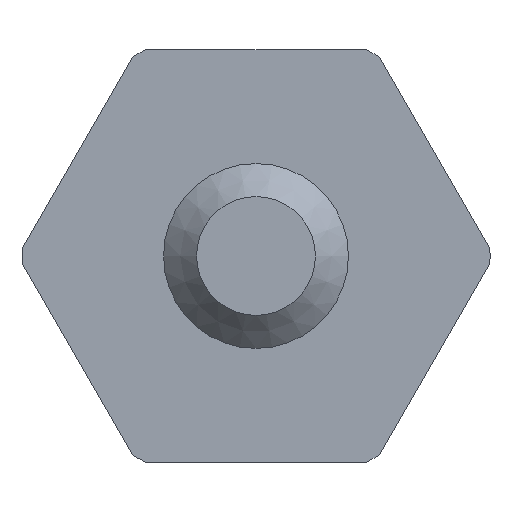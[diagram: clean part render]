
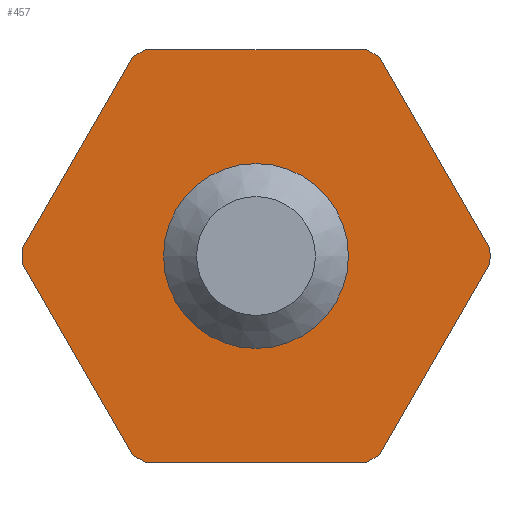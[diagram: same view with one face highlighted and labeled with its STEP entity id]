
A CAD part, left-side view. The second image highlights one B-rep face of the part: STEP entity #457.
In plain terms, the highlighted planar face has unit normal (-1, 0, 0).
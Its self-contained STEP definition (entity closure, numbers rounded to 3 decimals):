
#31=FACE_BOUND($,#88,.T.);
#32=FACE_BOUND($,#89,.T.);
#88=EDGE_LOOP($,(#333));
#89=EDGE_LOOP($,(#334,#335,#336,#337,#338,#339,#340,#341,#342,#343,#344,
#345));
#134=CIRCLE($,#502,0.991);
#135=CIRCLE($,#503,3.6);
#136=CIRCLE($,#504,3.6);
#137=CIRCLE($,#505,3.6);
#138=CIRCLE($,#506,3.6);
#139=CIRCLE($,#507,3.6);
#140=CIRCLE($,#508,3.6);
#160=LINE($,#729,#184);
#163=LINE($,#735,#187);
#166=LINE($,#741,#190);
#169=LINE($,#747,#193);
#172=LINE($,#753,#196);
#174=LINE($,#761,#198);
#184=VECTOR($,#581,3.394);
#187=VECTOR($,#586,3.394);
#190=VECTOR($,#591,3.394);
#193=VECTOR($,#596,3.394);
#196=VECTOR($,#601,3.394);
#198=VECTOR($,#609,3.394);
#217=VERTEX_POINT($,#726);
#218=VERTEX_POINT($,#728);
#219=VERTEX_POINT($,#732);
#220=VERTEX_POINT($,#734);
#221=VERTEX_POINT($,#738);
#222=VERTEX_POINT($,#740);
#223=VERTEX_POINT($,#744);
#224=VERTEX_POINT($,#746);
#225=VERTEX_POINT($,#750);
#226=VERTEX_POINT($,#752);
#227=VERTEX_POINT($,#756);
#228=VERTEX_POINT($,#758);
#229=VERTEX_POINT($,#760);
#259=EDGE_CURVE($,#218,#217,#160,.T.);
#262=EDGE_CURVE($,#220,#219,#163,.T.);
#265=EDGE_CURVE($,#222,#221,#166,.T.);
#268=EDGE_CURVE($,#224,#223,#169,.T.);
#271=EDGE_CURVE($,#226,#225,#172,.T.);
#273=EDGE_CURVE($,#227,#227,#134,.T.);
#274=EDGE_CURVE($,#217,#228,#135,.T.);
#275=EDGE_CURVE($,#228,#229,#174,.T.);
#276=EDGE_CURVE($,#229,#226,#136,.T.);
#277=EDGE_CURVE($,#225,#224,#137,.T.);
#278=EDGE_CURVE($,#223,#222,#138,.T.);
#279=EDGE_CURVE($,#221,#220,#139,.T.);
#280=EDGE_CURVE($,#219,#218,#140,.T.);
#333=ORIENTED_EDGE($,*,*,#273,.F.);
#334=ORIENTED_EDGE($,*,*,#259,.T.);
#335=ORIENTED_EDGE($,*,*,#274,.T.);
#336=ORIENTED_EDGE($,*,*,#275,.T.);
#337=ORIENTED_EDGE($,*,*,#276,.T.);
#338=ORIENTED_EDGE($,*,*,#271,.T.);
#339=ORIENTED_EDGE($,*,*,#277,.T.);
#340=ORIENTED_EDGE($,*,*,#268,.T.);
#341=ORIENTED_EDGE($,*,*,#278,.T.);
#342=ORIENTED_EDGE($,*,*,#265,.T.);
#343=ORIENTED_EDGE($,*,*,#279,.T.);
#344=ORIENTED_EDGE($,*,*,#262,.T.);
#345=ORIENTED_EDGE($,*,*,#280,.T.);
#408=PLANE($,#501);
#457=ADVANCED_FACE($,(#31,#32),#408,.T.);
#501=AXIS2_PLACEMENT_3D($,#755,#603,#604);
#502=AXIS2_PLACEMENT_3D($,#757,#605,#606);
#503=AXIS2_PLACEMENT_3D($,#759,#607,#608);
#504=AXIS2_PLACEMENT_3D($,#762,#610,#611);
#505=AXIS2_PLACEMENT_3D($,#763,#612,#613);
#506=AXIS2_PLACEMENT_3D($,#764,#614,#615);
#507=AXIS2_PLACEMENT_3D($,#765,#616,#617);
#508=AXIS2_PLACEMENT_3D($,#766,#618,#619);
#581=DIRECTION($,(0.,-1.,0.));
#586=DIRECTION($,(0.,-0.5,-0.866));
#591=DIRECTION($,(0.,0.5,-0.866));
#596=DIRECTION($,(0.,1.,0.));
#601=DIRECTION($,(0.,0.5,0.866));
#603=DIRECTION('center_axis',(-1.,0.,0.));
#604=DIRECTION('ref_axis',(0.,0.866,0.5));
#605=DIRECTION('center_axis',(-1.,0.,0.));
#606=DIRECTION('ref_axis',(0.,0.5,-0.866));
#607=DIRECTION('center_axis',(-1.,0.,0.));
#608=DIRECTION('ref_axis',(0.,0.5,-0.866));
#609=DIRECTION($,(0.,-0.5,0.866));
#610=DIRECTION('center_axis',(-1.,0.,0.));
#611=DIRECTION('ref_axis',(0.,0.5,-0.866));
#612=DIRECTION('center_axis',(-1.,0.,0.));
#613=DIRECTION('ref_axis',(0.,0.5,-0.866));
#614=DIRECTION('center_axis',(-1.,0.,0.));
#615=DIRECTION('ref_axis',(0.,0.5,-0.866));
#616=DIRECTION('center_axis',(-1.,0.,0.));
#617=DIRECTION('ref_axis',(0.,0.5,-0.866));
#618=DIRECTION('center_axis',(-1.,0.,0.));
#619=DIRECTION('ref_axis',(0.,0.5,-0.866));
#726=CARTESIAN_POINT('',(-1.575,-1.697,-3.175));
#728=CARTESIAN_POINT('',(-1.575,1.697,-3.175));
#729=CARTESIAN_POINT($,(-1.575,0.57,-3.175));
#732=CARTESIAN_POINT('',(-1.575,1.901,-3.057));
#734=CARTESIAN_POINT('',(-1.575,3.598,-0.118));
#735=CARTESIAN_POINT($,(-1.575,2.461,-2.088));
#738=CARTESIAN_POINT('',(-1.575,3.598,0.118));
#740=CARTESIAN_POINT('',(-1.575,1.901,3.057));
#741=CARTESIAN_POINT($,(-1.575,3.326,0.59));
#744=CARTESIAN_POINT('',(-1.575,1.697,3.175));
#746=CARTESIAN_POINT('',(-1.575,-1.697,3.175));
#747=CARTESIAN_POINT($,(-1.575,0.578,3.175));
#750=CARTESIAN_POINT('',(-1.575,-1.901,3.057));
#752=CARTESIAN_POINT('',(-1.575,-3.598,0.118));
#753=CARTESIAN_POINT($,(-1.575,-3.034,1.094));
#755=CARTESIAN_POINT('Origin',(-1.575,1.148,-1.988));
#756=CARTESIAN_POINT('',(-1.575,0.495,-0.858));
#757=CARTESIAN_POINT('Origin',(-1.575,0.,0.));
#758=CARTESIAN_POINT('',(-1.575,-1.901,-3.057));
#759=CARTESIAN_POINT('Origin',(-1.575,0.,0.));
#760=CARTESIAN_POINT('',(-1.575,-3.598,-0.118));
#761=CARTESIAN_POINT($,(-1.575,-2.178,-2.578));
#762=CARTESIAN_POINT('Origin',(-1.575,0.,0.));
#763=CARTESIAN_POINT('Origin',(-1.575,0.,0.));
#764=CARTESIAN_POINT('Origin',(-1.575,0.,0.));
#765=CARTESIAN_POINT('Origin',(-1.575,0.,0.));
#766=CARTESIAN_POINT('Origin',(-1.575,0.,0.));
